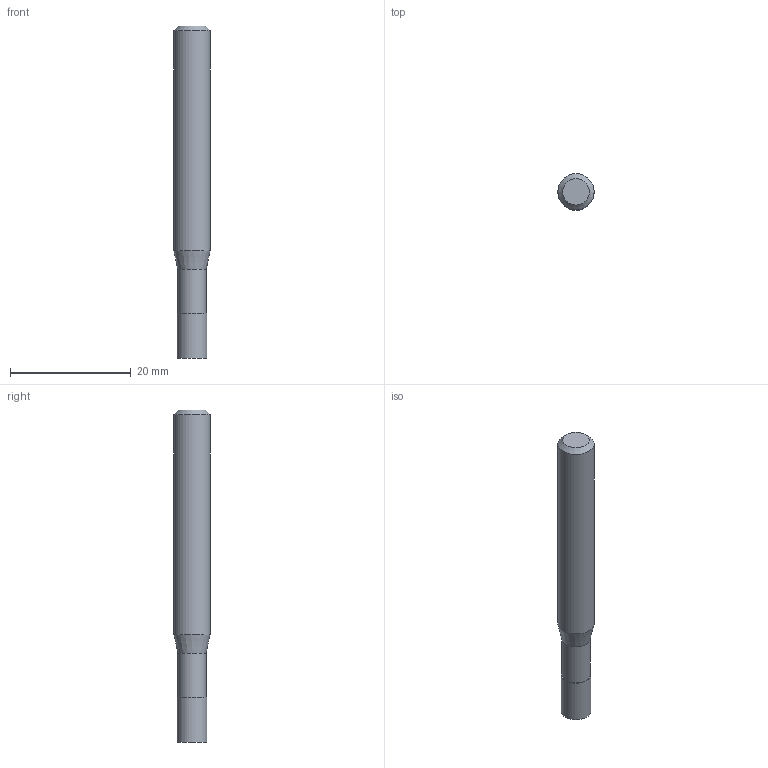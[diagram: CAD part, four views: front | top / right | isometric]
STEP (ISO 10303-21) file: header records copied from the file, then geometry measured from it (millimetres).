
FILE_DESCRIPTION((''),'2;1');
FILE_NAME('C:\Users\nsx150\AppData\Local\Temp\Mastercam 2021\EUJSUNXURU\TEMP.step','2021-04-22T10:28:30',(''),(''),'STEP Write','Mastercam 2021 ... CNC Software, Inc.','');
FILE_SCHEMA(('AUTOMOTIVE_DESIGN'));
Length unit declared in the file: millimetre
Products named in the file (1): None
Bounding box: 6 x 6 x 55 mm (x, y, z)
Volume: 1382.8 mm3; surface area: 1049.9 mm2
Topology: 2 solids, 2 shells, 9 faces, 12 edges, 7 vertices
Faces by surface type: plane 4, cylinder 3, cone 2
Full cylindrical faces by diameter (mm): 4.7 x1, 4.9 x1, 6 x1
Entity records: 211 total; most frequent: DIRECTION 36, CARTESIAN_POINT 25, AXIS2_PLACEMENT_3D 18, ORIENTED_EDGE 14, EDGE_LOOP 14, STYLED_ITEM 12, ADVANCED_FACE 9, FACE_BOUND 8
